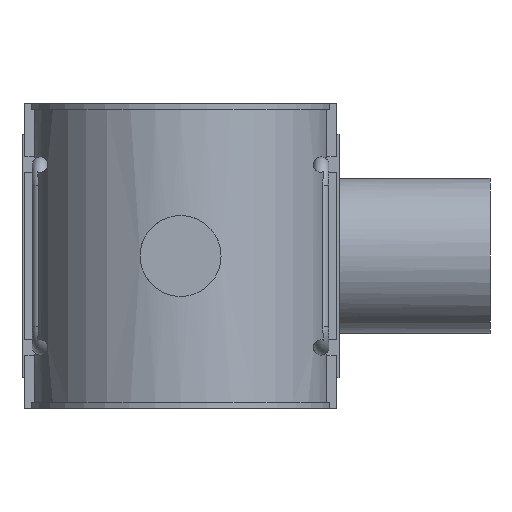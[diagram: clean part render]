
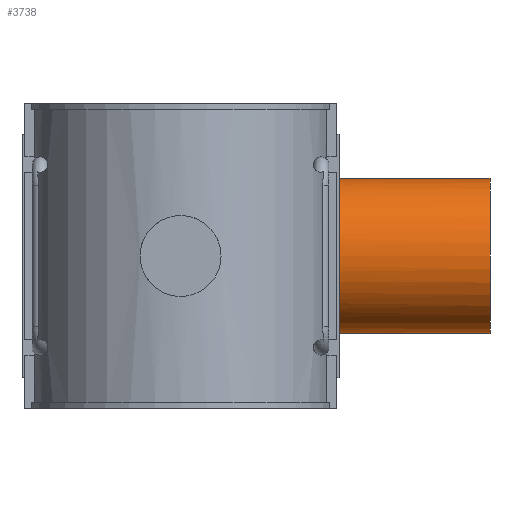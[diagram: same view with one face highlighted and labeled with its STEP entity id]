
A CAD part, front view. The second image highlights one B-rep face of the part: STEP entity #3738.
In plain terms, the highlighted cylindrical face has radius 30.05 mm (diameter 60.1 mm), a full revolution.
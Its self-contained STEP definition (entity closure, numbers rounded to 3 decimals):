
#82=B_SPLINE_CURVE_WITH_KNOTS('',3,(#5619,#5620,#5621,#5622,#5623,#5624,
#5625,#5626,#5627,#5628,#5629,#5630,#5631,#5632,#5633,#5634,#5635,#5636),
 .UNSPECIFIED.,.F.,.F.,(4,2,2,2,2,2,2,2,4),(0.,0.647,1.294,
1.941,2.588,3.194,3.801,4.407,
5.013),.UNSPECIFIED.);
#83=B_SPLINE_CURVE_WITH_KNOTS('',3,(#5637,#5638,#5639,#5640,#5641,#5642,
#5643,#5644,#5645,#5646,#5647,#5648,#5649,#5650,#5651,#5652,#5653,#5654,
#5655,#5656,#5657,#5658,#5659,#5660,#5661,#5662,#5663,#5664,#5665,#5666,
#5667,#5668,#5669,#5670,#5671,#5672,#5673,#5674,#5675,#5676,#5677,#5678,
#5679,#5680,#5681,#5682,#5683,#5684,#5685,#5686),.UNSPECIFIED.,.F.,.F.,
(4,2,2,2,2,2,2,2,2,2,2,2,2,2,2,2,2,2,2,2,2,2,2,2,4),(5.013,5.619,
6.225,6.831,7.437,8.084,8.732,
9.379,10.026,10.673,11.32,11.967,
12.614,13.22,13.826,14.432,15.039,
15.645,16.251,16.857,17.463,18.11,
18.757,19.404,20.051),.UNSPECIFIED.);
#295=FACE_OUTER_BOUND('',#507,.T.);
#507=EDGE_LOOP('',(#2540,#2541,#2542,#2543,#2544,#2545));
#746=CIRCLE('',#3976,30.05);
#747=CIRCLE('',#3977,30.05);
#888=LINE('',#5617,#1229);
#1229=VECTOR('',#4354,30.05);
#1580=VERTEX_POINT('',#5612);
#1581=VERTEX_POINT('',#5613);
#1582=VERTEX_POINT('',#5616);
#1583=VERTEX_POINT('',#5618);
#1957=EDGE_CURVE('',#1580,#1581,#746,.T.);
#1958=EDGE_CURVE('',#1581,#1580,#747,.T.);
#1959=EDGE_CURVE('',#1581,#1582,#888,.T.);
#1960=EDGE_CURVE('',#1583,#1582,#82,.T.);
#1961=EDGE_CURVE('',#1582,#1583,#83,.T.);
#2540=ORIENTED_EDGE('',*,*,#1957,.F.);
#2541=ORIENTED_EDGE('',*,*,#1958,.F.);
#2542=ORIENTED_EDGE('',*,*,#1959,.T.);
#2543=ORIENTED_EDGE('',*,*,#1960,.F.);
#2544=ORIENTED_EDGE('',*,*,#1961,.F.);
#2545=ORIENTED_EDGE('',*,*,#1959,.F.);
#3680=CYLINDRICAL_SURFACE('',#3975,30.05);
#3738=ADVANCED_FACE('',(#295),#3680,.T.);
#3975=AXIS2_PLACEMENT_3D('',#5611,#4348,#4349);
#3976=AXIS2_PLACEMENT_3D('',#5614,#4350,#4351);
#3977=AXIS2_PLACEMENT_3D('',#5615,#4352,#4353);
#4348=DIRECTION('center_axis',(1.,0.,0.));
#4349=DIRECTION('ref_axis',(0.,1.,0.));
#4350=DIRECTION('center_axis',(1.,0.,0.));
#4351=DIRECTION('ref_axis',(0.,0.,-1.));
#4352=DIRECTION('center_axis',(1.,0.,0.));
#4353=DIRECTION('ref_axis',(0.,0.,-1.));
#4354=DIRECTION('',(-1.,0.,0.));
#5611=CARTESIAN_POINT('Origin',(59.944,109.374,0.));
#5612=CARTESIAN_POINT('',(119.888,139.424,0.));
#5613=CARTESIAN_POINT('',(119.888,79.324,0.));
#5614=CARTESIAN_POINT('Origin',(119.888,109.374,0.));
#5615=CARTESIAN_POINT('Origin',(119.888,109.374,0.));
#5616=CARTESIAN_POINT('',(33.928,79.324,0.));
#5617=CARTESIAN_POINT('',(59.944,79.324,0.));
#5618=CARTESIAN_POINT('',(15.751,109.374,-30.05));
#5619=CARTESIAN_POINT('Ctrl Pts',(15.751,109.374,-30.05));
#5620=CARTESIAN_POINT('Ctrl Pts',(15.751,107.217,-30.05));
#5621=CARTESIAN_POINT('Ctrl Pts',(16.2,105.171,-29.822));
#5622=CARTESIAN_POINT('Ctrl Pts',(17.625,101.258,-29.002));
#5623=CARTESIAN_POINT('Ctrl Pts',(18.595,99.388,-28.409));
#5624=CARTESIAN_POINT('Ctrl Pts',(20.736,95.811,-26.885));
#5625=CARTESIAN_POINT('Ctrl Pts',(21.908,94.108,-25.954));
#5626=CARTESIAN_POINT('Ctrl Pts',(24.232,90.928,-23.8));
#5627=CARTESIAN_POINT('Ctrl Pts',(25.384,89.452,-22.575));
#5628=CARTESIAN_POINT('Ctrl Pts',(27.448,86.883,-20.006));
#5629=CARTESIAN_POINT('Ctrl Pts',(28.442,85.684,-18.587));
#5630=CARTESIAN_POINT('Ctrl Pts',(30.267,83.522,-15.437));
#5631=CARTESIAN_POINT('Ctrl Pts',(31.097,82.558,-13.708));
#5632=CARTESIAN_POINT('Ctrl Pts',(32.471,80.976,-10.029));
#5633=CARTESIAN_POINT('Ctrl Pts',(33.015,80.357,-8.076));
#5634=CARTESIAN_POINT('Ctrl Pts',(33.744,79.531,-4.071));
#5635=CARTESIAN_POINT('Ctrl Pts',(33.928,79.324,-2.02));
#5636=CARTESIAN_POINT('Ctrl Pts',(33.928,79.324,0.));
#5637=CARTESIAN_POINT('Ctrl Pts',(33.928,79.324,0.));
#5638=CARTESIAN_POINT('Ctrl Pts',(33.928,79.324,2.02));
#5639=CARTESIAN_POINT('Ctrl Pts',(33.744,79.531,4.071));
#5640=CARTESIAN_POINT('Ctrl Pts',(33.015,80.357,8.076));
#5641=CARTESIAN_POINT('Ctrl Pts',(32.471,80.976,10.029));
#5642=CARTESIAN_POINT('Ctrl Pts',(31.097,82.558,13.708));
#5643=CARTESIAN_POINT('Ctrl Pts',(30.267,83.522,15.437));
#5644=CARTESIAN_POINT('Ctrl Pts',(28.442,85.684,18.587));
#5645=CARTESIAN_POINT('Ctrl Pts',(27.448,86.883,20.006));
#5646=CARTESIAN_POINT('Ctrl Pts',(25.384,89.452,22.575));
#5647=CARTESIAN_POINT('Ctrl Pts',(24.232,90.928,23.8));
#5648=CARTESIAN_POINT('Ctrl Pts',(21.908,94.108,25.954));
#5649=CARTESIAN_POINT('Ctrl Pts',(20.736,95.811,26.885));
#5650=CARTESIAN_POINT('Ctrl Pts',(18.595,99.388,28.409));
#5651=CARTESIAN_POINT('Ctrl Pts',(17.625,101.258,29.002));
#5652=CARTESIAN_POINT('Ctrl Pts',(16.2,105.171,29.822));
#5653=CARTESIAN_POINT('Ctrl Pts',(15.751,107.217,30.05));
#5654=CARTESIAN_POINT('Ctrl Pts',(15.751,111.531,30.05));
#5655=CARTESIAN_POINT('Ctrl Pts',(16.2,113.577,29.822));
#5656=CARTESIAN_POINT('Ctrl Pts',(17.625,117.49,29.002));
#5657=CARTESIAN_POINT('Ctrl Pts',(18.595,119.36,28.409));
#5658=CARTESIAN_POINT('Ctrl Pts',(20.736,122.937,26.885));
#5659=CARTESIAN_POINT('Ctrl Pts',(21.908,124.64,25.954));
#5660=CARTESIAN_POINT('Ctrl Pts',(24.232,127.82,23.8));
#5661=CARTESIAN_POINT('Ctrl Pts',(25.384,129.296,22.575));
#5662=CARTESIAN_POINT('Ctrl Pts',(27.448,131.865,20.006));
#5663=CARTESIAN_POINT('Ctrl Pts',(28.442,133.064,18.587));
#5664=CARTESIAN_POINT('Ctrl Pts',(30.267,135.226,15.437));
#5665=CARTESIAN_POINT('Ctrl Pts',(31.097,136.19,13.708));
#5666=CARTESIAN_POINT('Ctrl Pts',(32.471,137.772,10.029));
#5667=CARTESIAN_POINT('Ctrl Pts',(33.015,138.391,8.076));
#5668=CARTESIAN_POINT('Ctrl Pts',(33.744,139.217,4.071));
#5669=CARTESIAN_POINT('Ctrl Pts',(33.928,139.424,2.02));
#5670=CARTESIAN_POINT('Ctrl Pts',(33.928,139.424,-2.02));
#5671=CARTESIAN_POINT('Ctrl Pts',(33.744,139.217,-4.071));
#5672=CARTESIAN_POINT('Ctrl Pts',(33.015,138.391,-8.076));
#5673=CARTESIAN_POINT('Ctrl Pts',(32.471,137.772,-10.029));
#5674=CARTESIAN_POINT('Ctrl Pts',(31.097,136.19,-13.708));
#5675=CARTESIAN_POINT('Ctrl Pts',(30.267,135.226,-15.437));
#5676=CARTESIAN_POINT('Ctrl Pts',(28.442,133.064,-18.587));
#5677=CARTESIAN_POINT('Ctrl Pts',(27.448,131.865,-20.006));
#5678=CARTESIAN_POINT('Ctrl Pts',(25.384,129.296,-22.575));
#5679=CARTESIAN_POINT('Ctrl Pts',(24.232,127.82,-23.8));
#5680=CARTESIAN_POINT('Ctrl Pts',(21.908,124.64,-25.954));
#5681=CARTESIAN_POINT('Ctrl Pts',(20.736,122.937,-26.885));
#5682=CARTESIAN_POINT('Ctrl Pts',(18.595,119.36,-28.409));
#5683=CARTESIAN_POINT('Ctrl Pts',(17.625,117.49,-29.002));
#5684=CARTESIAN_POINT('Ctrl Pts',(16.2,113.577,-29.822));
#5685=CARTESIAN_POINT('Ctrl Pts',(15.751,111.531,-30.05));
#5686=CARTESIAN_POINT('Ctrl Pts',(15.751,109.374,-30.05));
